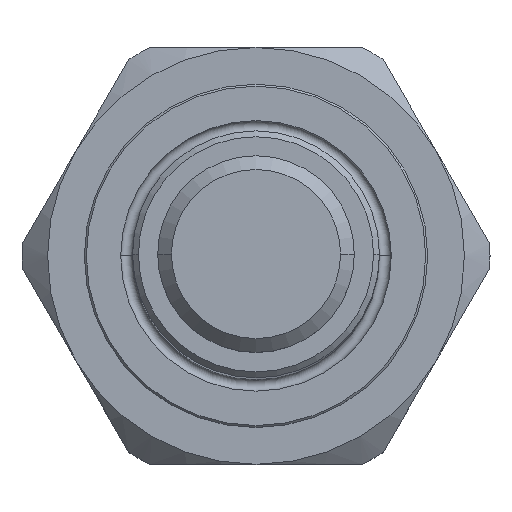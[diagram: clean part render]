
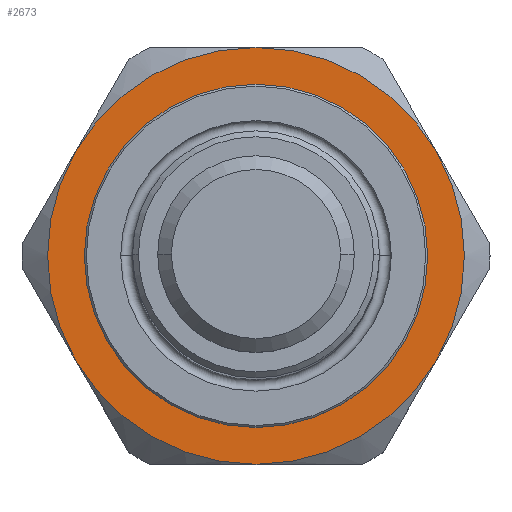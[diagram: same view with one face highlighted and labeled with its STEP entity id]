
A CAD part, top view. The second image highlights one B-rep face of the part: STEP entity #2673.
In plain terms, the highlighted planar face has unit normal (0, 0, 1).
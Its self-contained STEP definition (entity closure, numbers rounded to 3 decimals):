
#1013=CARTESIAN_POINT('',(11.658,6.731,7.544));
#1021=CARTESIAN_POINT('',(0.,0.,7.544));
#1022=DIRECTION('',(0.,0.,-1.));
#1023=DIRECTION('',(-0.866,-0.5,0.));
#1024=AXIS2_PLACEMENT_3D('',#1021,#1022,#1023);
#1026=CARTESIAN_POINT('',(0.,0.,7.544));
#1027=DIRECTION('',(0.,0.,-1.));
#1028=DIRECTION('',(-1.,0.,0.));
#1029=AXIS2_PLACEMENT_3D('',#1026,#1027,#1028);
#1031=CARTESIAN_POINT('',(0.,0.,7.544));
#1032=DIRECTION('',(0.,0.,-1.));
#1033=DIRECTION('',(-0.866,0.5,0.));
#1034=AXIS2_PLACEMENT_3D('',#1031,#1032,#1033);
#1036=CARTESIAN_POINT('',(0.,0.,7.544));
#1037=DIRECTION('',(0.,0.,-1.));
#1038=DIRECTION('',(0.,1.,0.));
#1039=AXIS2_PLACEMENT_3D('',#1036,#1037,#1038);
#1041=CARTESIAN_POINT('',(0.,0.,7.544));
#1042=DIRECTION('',(0.,0.,-1.));
#1043=DIRECTION('',(0.866,0.5,0.));
#1044=AXIS2_PLACEMENT_3D('',#1041,#1042,#1043);
#1046=CARTESIAN_POINT('',(0.,0.,7.544));
#1047=DIRECTION('',(0.,0.,-1.));
#1048=DIRECTION('',(1.,0.,0.));
#1049=AXIS2_PLACEMENT_3D('',#1046,#1047,#1048);
#1051=CARTESIAN_POINT('',(0.,0.,7.544));
#1052=DIRECTION('',(0.,0.,-1.));
#1053=DIRECTION('',(0.866,-0.5,0.));
#1054=AXIS2_PLACEMENT_3D('',#1051,#1052,#1053);
#1056=CARTESIAN_POINT('',(0.,0.,7.544));
#1057=DIRECTION('',(0.,0.,-1.));
#1058=DIRECTION('',(0.,-1.,0.));
#1059=AXIS2_PLACEMENT_3D('',#1056,#1057,#1058);
#1061=CARTESIAN_POINT('',(0.,0.,7.544));
#1062=DIRECTION('',(0.,0.,1.));
#1063=DIRECTION('',(-1.,0.,0.));
#1064=AXIS2_PLACEMENT_3D('',#1061,#1062,#1063);
#1066=CARTESIAN_POINT('',(0.,0.,7.544));
#1067=DIRECTION('',(0.,0.,1.));
#1068=DIRECTION('',(1.,0.,0.));
#1069=AXIS2_PLACEMENT_3D('',#1066,#1067,#1068);
#1087=CARTESIAN_POINT('',(-11.658,6.731,7.544));
#1089=CARTESIAN_POINT('',(-11.658,-6.731,7.544));
#1113=CARTESIAN_POINT('',(0.,13.462,7.544));
#1155=CARTESIAN_POINT('',(0.,-13.462,7.544));
#1184=CARTESIAN_POINT('',(11.658,-6.731,7.544));
#1588=VERTEX_POINT('',#1089);
#1590=VERTEX_POINT('',#1087);
#1591=CARTESIAN_POINT('',(-13.462,0.,7.544));
#1592=VERTEX_POINT('',#1591);
#1599=VERTEX_POINT('',#1113);
#1604=VERTEX_POINT('',#1013);
#1611=VERTEX_POINT('',#1184);
#1616=VERTEX_POINT('',#1155);
#1617=CARTESIAN_POINT('',(13.462,0.,7.544));
#1618=VERTEX_POINT('',#1617);
#1619=CARTESIAN_POINT('',(-11.087,0.,7.544));
#1620=CARTESIAN_POINT('',(11.087,0.,7.544));
#1621=VERTEX_POINT('',#1619);
#1622=VERTEX_POINT('',#1620);
#2646=CARTESIAN_POINT('',(0.,0.,7.544));
#2647=DIRECTION('',(0.,0.,1.));
#2648=DIRECTION('',(1.,0.,0.));
#2649=AXIS2_PLACEMENT_3D('',#2646,#2647,#2648);
#2650=PLANE('',#2649);
#2652=ORIENTED_EDGE('',*,*,#2651,.T.);
#2654=ORIENTED_EDGE('',*,*,#2653,.T.);
#2656=ORIENTED_EDGE('',*,*,#2655,.T.);
#2658=ORIENTED_EDGE('',*,*,#2657,.T.);
#2659=ORIENTED_EDGE('',*,*,#2639,.T.);
#2660=ORIENTED_EDGE('',*,*,#2637,.T.);
#2662=ORIENTED_EDGE('',*,*,#2661,.T.);
#2664=ORIENTED_EDGE('',*,*,#2663,.T.);
#2665=EDGE_LOOP('',(#2652,#2654,#2656,#2658,#2659,#2660,#2662,#2664));
#2666=FACE_OUTER_BOUND('',#2665,.F.);
#2668=ORIENTED_EDGE('',*,*,#2667,.T.);
#2670=ORIENTED_EDGE('',*,*,#2669,.T.);
#2671=EDGE_LOOP('',(#2668,#2670));
#2672=FACE_BOUND('',#2671,.F.);
#2673=ADVANCED_FACE('',(#2666,#2672),#2650,.T.);
#1025=CIRCLE('',#1024,13.462);
#1030=CIRCLE('',#1029,13.462);
#1035=CIRCLE('',#1034,13.462);
#1040=CIRCLE('',#1039,13.462);
#1045=CIRCLE('',#1044,13.462);
#1050=CIRCLE('',#1049,13.462);
#1055=CIRCLE('',#1054,13.462);
#1060=CIRCLE('',#1059,13.462);
#1065=CIRCLE('',#1064,11.087);
#1070=CIRCLE('',#1069,11.087);
#2637=EDGE_CURVE('',#1618,#1611,#1050,.T.);
#2639=EDGE_CURVE('',#1604,#1618,#1045,.T.);
#2651=EDGE_CURVE('',#1588,#1592,#1025,.T.);
#2653=EDGE_CURVE('',#1592,#1590,#1030,.T.);
#2655=EDGE_CURVE('',#1590,#1599,#1035,.T.);
#2657=EDGE_CURVE('',#1599,#1604,#1040,.T.);
#2661=EDGE_CURVE('',#1611,#1616,#1055,.T.);
#2663=EDGE_CURVE('',#1616,#1588,#1060,.T.);
#2667=EDGE_CURVE('',#1621,#1622,#1065,.T.);
#2669=EDGE_CURVE('',#1622,#1621,#1070,.T.);
